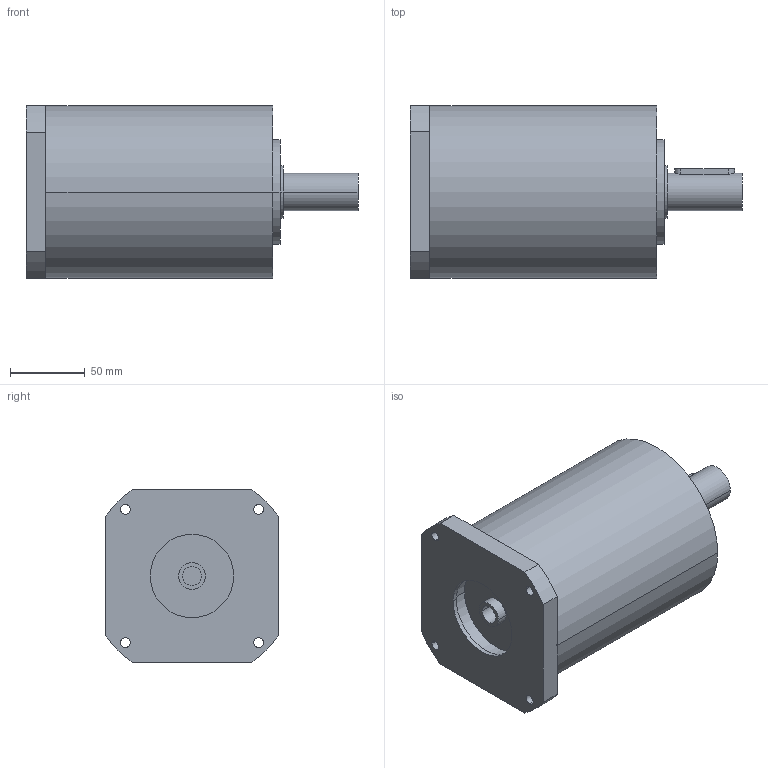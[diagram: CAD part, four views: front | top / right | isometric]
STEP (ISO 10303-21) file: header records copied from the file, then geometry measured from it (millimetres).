
FILE_DESCRIPTION(('CoCreate Modeling STEP Export'),'2;1');
FILE_NAME('GPR125_ig-9-12-16-20-28-35_25_B14_12.7_P01.stp','2014-08-26T14:09:14',(''),(''),'CoCreate Modeling STEP processor for AP214 (Solid Model)','CoCreate Modeling 16.00C 25-Feb-2009 (C) Parametric Technology GmbH','');
FILE_SCHEMA(('AUTOMOTIVE_DESIGN { 1 0 10303 214 1 1 1 1 }'));
Length unit declared in the file: millimetre
Products named in the file (2): GPR125_ig-9-12-16-20-28-35_25_B14_12.7_P01
Assembly tree (1 placements, depth 2):
  GPR125_ig-9-12-16-20-28-35_25_B14_12.7_P01
    GPR125_ig-9-12-16-20-28-35_25_B14_12.7_P01
Bounding box: 221.4 x 115 x 115 mm (x, y, z)
Volume: 1738384.9 mm3; surface area: 99765.1 mm2
Topology: 1 solids, 1 shells, 77 faces, 209 edges, 149 vertices
Faces by surface type: cylinder 48, plane 25, cone 4
Entity records: 2138 total; most frequent: ORIENTED_EDGE 414, CARTESIAN_POINT 396, DIRECTION 288, EDGE_CURVE 207, VERTEX_POINT 149, AXIS2_PLACEMENT_3D 109, EDGE_LOOP 102, FACE_OUTER_BOUND 77
